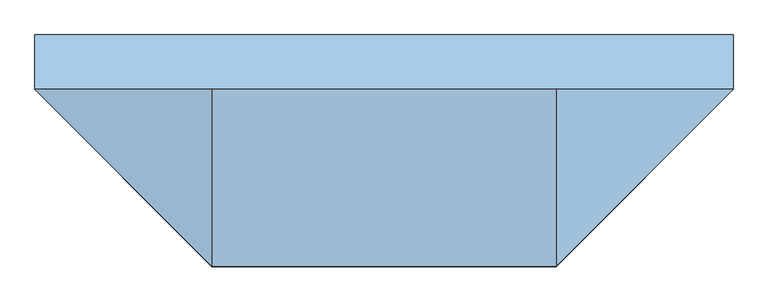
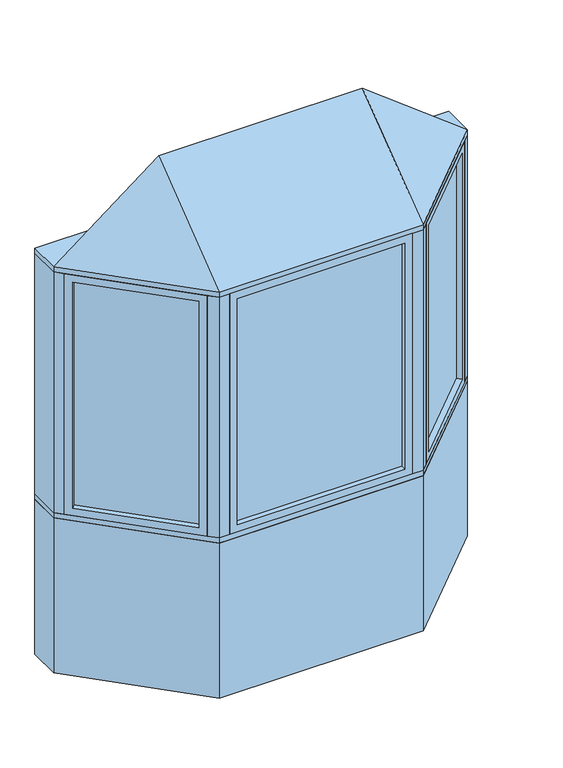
"""IFC4 building model written with IfcOpenShell, lengths in millimetres: window geometry, Pollard_Windows_Tudor Casement Bows and Bays : AML-BAY 45 AFR0612-08-600."""

from ifc_helpers import new_model, si_unit, frame, origin, origin_with_axes, place, context, project, spatial, polyline, outline, extrude, faceted_brep, source, transform, mapped, element, save


def window_e7f25935(model_context):
    return source(origin(), model_context, "Body", "SolidModel", [
        extrude(outline(polyline([(910.5964271, -104.763169), (514.974814, -500.3847822), (511.3827115, -496.7926797), (907.0043247, -101.1710666), (910.5964271, -104.763169)])), frame((0.0, 0.0, 823.1628), z_axis=(0.0, 0.0, 1.0), x_axis=(1.0, 0.0, 0.0)), (0.0, 0.0, 1.0), 1153.6704),
        faceted_brep([(901.616171, -113.7434252, 835.8628), (919.5766833, -131.7039374, 835.8628), (919.5766833, -131.7039374, 1964.1332), (901.616171, -113.7434252, 1964.1332), (907.0043247, -101.1710666, 823.1628), (910.5964271, -104.763169, 823.1628), (910.5964271, -104.763169, 1976.8332), (907.0043247, -101.1710666, 1976.8332), (880.0635563, -92.1908105, 835.8628), (898.0240686, -110.1513227, 835.8628), (898.0240686, -110.1513227, 1964.1332), (880.0635563, -92.1908105, 1964.1332), (944.9369265, -106.3436941, 799.998), (905.4237996, -66.8305672, 799.998), (905.4237996, -66.8305672, 1999.998), (944.9369265, -106.3436941, 1999.998), (541.9155823, -509.3650383, 1964.1332), (523.9550701, -491.4045261, 1964.1332), (514.974814, -500.3847822, 1976.8332), (511.3827115, -496.7926797, 1976.8332), (520.3629677, -487.8124236, 1964.1332), (502.4024554, -469.8519114, 1964.1332), (477.0422121, -495.2121547, 1999.998), (516.5553391, -534.7252816, 1999.998), (541.9155823, -509.3650383, 835.8628), (523.9550701, -491.4045261, 835.8628), (514.974814, -500.3847822, 823.1628), (511.3827115, -496.7926797, 823.1628), (520.3629677, -487.8124236, 835.8628), (502.4024554, -469.8519114, 835.8628), (477.0422121, -495.2121547, 799.998), (516.5553391, -534.7252816, 799.998)], [[[0, 1, 2, 3]], [[4, 5, 6, 7]], [[8, 9, 10, 11]], [[12, 13, 14, 15]], [[3, 2, 16, 17]], [[7, 6, 18, 19]], [[11, 10, 20, 21]], [[15, 14, 22, 23]], [[17, 16, 24, 25]], [[19, 18, 26, 27]], [[21, 20, 28, 29]], [[23, 22, 30, 31]], [[25, 24, 1, 0]], [[5, 26, 18, 6], [3, 17, 25, 0]], [[27, 26, 5, 4]], [[7, 19, 27, 4], [9, 28, 20, 10]], [[29, 28, 9, 8]], [[13, 30, 22, 14], [11, 21, 29, 8]], [[31, 30, 13, 12]], [[15, 23, 31, 12], [1, 24, 16, 2]]]),
        extrude(outline(polyline([(-514.974814, -500.3847822), (-910.5964271, -104.763169), (-907.0043247, -101.1710666), (-511.3827115, -496.7926797), (-514.974814, -500.3847822)])), frame((0.0, 0.0, 823.1628), z_axis=(0.0, 0.0, 1.0), x_axis=(1.0, 0.0, 0.0)), (0.0, 0.0, 1.0), 1153.6704),
        faceted_brep([(-520.3629677, -487.8124236, 1964.1332), (-502.4024554, -469.8519114, 1964.1332), (-502.4024554, -469.8519114, 835.8628), (-520.3629677, -487.8124236, 835.8628), (-514.974814, -500.3847822, 1976.8332), (-511.3827115, -496.7926797, 1976.8332), (-511.3827115, -496.7926797, 823.1628), (-514.974814, -500.3847822, 823.1628), (-541.9155823, -509.3650383, 1964.1332), (-523.9550701, -491.4045261, 1964.1332), (-523.9550701, -491.4045261, 835.8628), (-541.9155823, -509.3650383, 835.8628), (-477.0422121, -495.2121547, 1999.998), (-516.5553391, -534.7252816, 1999.998), (-516.5553391, -534.7252816, 799.998), (-477.0422121, -495.2121547, 799.998), (-880.0635563, -92.1908105, 835.8628), (-898.0240686, -110.1513227, 835.8628), (-907.0043247, -101.1710666, 823.1628), (-910.5964271, -104.763169, 823.1628), (-901.616171, -113.7434252, 835.8628), (-919.5766833, -131.7039374, 835.8628), (-944.9369265, -106.3436941, 799.998), (-905.4237996, -66.8305672, 799.998), (-880.0635563, -92.1908105, 1964.1332), (-898.0240686, -110.1513227, 1964.1332), (-907.0043247, -101.1710666, 1976.8332), (-910.5964271, -104.763169, 1976.8332), (-901.616171, -113.7434252, 1964.1332), (-919.5766833, -131.7039374, 1964.1332), (-944.9369265, -106.3436941, 1999.998), (-905.4237996, -66.8305672, 1999.998)], [[[0, 1, 2, 3]], [[4, 5, 6, 7]], [[8, 9, 10, 11]], [[12, 13, 14, 15]], [[3, 2, 16, 17]], [[7, 6, 18, 19]], [[11, 10, 20, 21]], [[15, 14, 22, 23]], [[17, 16, 24, 25]], [[19, 18, 26, 27]], [[21, 20, 28, 29]], [[23, 22, 30, 31]], [[15, 23, 31, 12], [1, 24, 16, 2]], [[25, 24, 1, 0]], [[5, 26, 18, 6], [3, 17, 25, 0]], [[27, 26, 5, 4]], [[7, 19, 27, 4], [9, 28, 20, 10]], [[29, 28, 9, 8]], [[13, 30, 22, 14], [11, 21, 29, 8]], [[31, 30, 13, 12]]]),
        extrude(outline(polyline([(408.0352, -544.6806207), (-408.0352, -544.6806207), (-408.0352, -539.6006207), (408.0352, -539.6006207), (408.0352, -544.6806207)])), frame((0.0, 0.0, 823.1628), z_axis=(0.0, 0.0, 1.0), x_axis=(1.0, 0.0, 0.0)), (0.0, 0.0, 1.0), 1153.6704),
        faceted_brep([(395.3352, -544.6806207, 835.8628), (395.3352, -570.0806207, 835.8628), (395.3352, -570.0806207, 1964.1332), (395.3352, -544.6806207, 1964.1332), (408.0352, -539.6006207, 823.1628), (408.0352, -544.6806207, 823.1628), (408.0352, -544.6806207, 1976.8332), (408.0352, -539.6006207, 1976.8332), (395.3352, -514.2006207, 835.8628), (395.3352, -539.6006207, 835.8628), (395.3352, -539.6006207, 1964.1332), (395.3352, -514.2006207, 1964.1332), (431.2, -570.0806207, 799.998), (431.2, -514.2006207, 799.998), (431.2, -514.2006207, 1999.998), (431.2, -570.0806207, 1999.998), (-395.3352, -570.0806207, 1964.1332), (-395.3352, -544.6806207, 1964.1332), (-408.0352, -544.6806207, 1976.8332), (-408.0352, -539.6006207, 1976.8332), (-395.3352, -539.6006207, 1964.1332), (-395.3352, -514.2006207, 1964.1332), (-431.2, -514.2006207, 1999.998), (-431.2, -570.0806207, 1999.998), (-395.3352, -570.0806207, 835.8628), (-395.3352, -544.6806207, 835.8628), (-408.0352, -544.6806207, 823.1628), (-408.0352, -539.6006207, 823.1628), (-395.3352, -539.6006207, 835.8628), (-395.3352, -514.2006207, 835.8628), (-431.2, -514.2006207, 799.998), (-431.2, -570.0806207, 799.998)], [[[0, 1, 2, 3]], [[4, 5, 6, 7]], [[8, 9, 10, 11]], [[12, 13, 14, 15]], [[3, 2, 16, 17]], [[7, 6, 18, 19]], [[11, 10, 20, 21]], [[15, 14, 22, 23]], [[17, 16, 24, 25]], [[19, 18, 26, 27]], [[21, 20, 28, 29]], [[23, 22, 30, 31]], [[15, 23, 31, 12], [1, 24, 16, 2]], [[25, 24, 1, 0]], [[5, 26, 18, 6], [3, 17, 25, 0]], [[27, 26, 5, 4]], [[7, 19, 27, 4], [9, 28, 20, 10]], [[29, 28, 9, 8]], [[13, 30, 22, 14], [11, 21, 29, 8]], [[31, 30, 13, 12]]]),
        faceted_brep([(976.5, -74.7806207, 2025.398), (481.2, -570.0806207, 2025.398), (-481.2, -570.0806207, 2025.398), (-976.5, -74.7806207, 2025.398), (-481.2, -74.7806207, 2406.398), (481.2, -74.7806207, 2406.398)], [[[0, 1, 2, 3]], [[3, 2, 4]], [[2, 1, 5, 4]], [[1, 0, 5]], [[0, 3, 4, 5]]]),
        extrude(outline(polyline([(-976.5, 77.6193793), (976.5, 77.6193793), (976.5, -74.7806207), (481.2, -570.0806207), (-481.2, -570.0806207), (-976.5, -74.7806207), (-976.5, 77.6193793)])), frame((0.0, 0.0, 1999.998), z_axis=(0.0, 0.0, 1.0), x_axis=(1.0, 0.0, 0.0)), (0.0, 0.0, 1.0), 25.4),
        extrude(outline(polyline([(-976.5, -74.7806207), (-976.5, 77.6193793), (-913.3738531, 77.6193793), (-913.3738531, -74.7806207), (-944.9369265, -106.3436941), (-976.5, -74.7806207)])), frame((0.0, 0.0, 799.998), z_axis=(0.0, 0.0, 1.0), x_axis=(1.0, 0.0, 0.0)), (0.0, 0.0, 1.0), 1200.0),
        extrude(outline(polyline([(976.5, 77.6193793), (976.5, -74.7806207), (944.9369265, -106.3436941), (913.3738531, -74.7806207), (913.3738531, 77.6193793), (976.5, 77.6193793)])), frame((0.0, 0.0, 799.998), z_axis=(0.0, 0.0, 1.0), x_axis=(1.0, 0.0, 0.0)), (0.0, 0.0, 1.0), 1200.0),
        extrude(outline(polyline([(481.2, -570.0806207), (431.2, -570.0806207), (431.2, -520.0806207), (460.4893219, -520.0806207), (481.2, -499.3699425), (516.5553391, -534.7252816), (481.2, -570.0806207)])), frame((0.0, 0.0, 799.998), z_axis=(0.0, 0.0, 1.0), x_axis=(1.0, 0.0, 0.0)), (0.0, 0.0, 1.0), 1200.0),
        extrude(outline(polyline([(-481.2, -570.0806207), (-516.5553391, -534.7252816), (-481.2, -499.3699425), (-460.4893219, -520.0806207), (-431.2, -520.0806207), (-431.2, -570.0806207), (-481.2, -570.0806207)])), frame((0.0, 0.0, 799.998), z_axis=(0.0, 0.0, 1.0), x_axis=(1.0, 0.0, 0.0)), (0.0, 0.0, 1.0), 1200.0),
        extrude(outline(polyline([(-481.2, -570.0806207), (-976.5, -74.7806207), (-976.5, 77.6193793), (-913.3738531, 77.6193793), (-418.0738531, -417.6806207), (418.0738531, -417.6806207), (913.3738531, 77.6193793), (976.5, 77.6193793), (976.5, -74.7806207), (481.2, -570.0806207), (-481.2, -570.0806207)])), frame((0.0, 0.0, 774.598), z_axis=(0.0, 0.0, 1.0), x_axis=(1.0, 0.0, 0.0)), (0.0, 0.0, 1.0), 25.4),
        extrude(outline(polyline([(-976.5, -74.7806207), (-976.5, 77.6193793), (-913.3738531, 77.6193793), (-418.0738531, -417.6806207), (418.0738531, -417.6806207), (913.3738531, 77.6193793), (976.5, 77.6193793), (976.5, -74.7806207), (481.2, -570.0806207), (-481.2, -570.0806207), (-976.5, -74.7806207)])), origin_with_axes(), (0.0, 0.0, 1.0), 774.598),
    ])


if __name__ == "__main__":
    model = new_model("IFC4")
    model_context = context("Model", 3, world=origin())
    ifc_project = project(units=[si_unit("LENGTHUNIT", "METRE", prefix="MILLI")], contexts=[model_context])
    site = spatial("IfcSite", under=ifc_project)
    building = spatial("IfcBuilding", under=site)
    placement = place(None, origin())
    window_shape = window_e7f25935(model_context)
    element("IfcWindow", 1, ObjectType="Pollard_Windows_Tudor Casement Bows and Bays : AML-BAY 45 AFR0612-08-600", at=placement, inside=building, context=model_context, shape_type="MappedRepresentation", body=[
        mapped(window_shape, transform((0.0, 0.0, 0.0), x_axis=(1.0, 0.0, 0.0), y_axis=(0.0, 1.0, 0.0), z_axis=(0.0, 0.0, 1.0))),
    ])
    save(model, "model.ifc")
